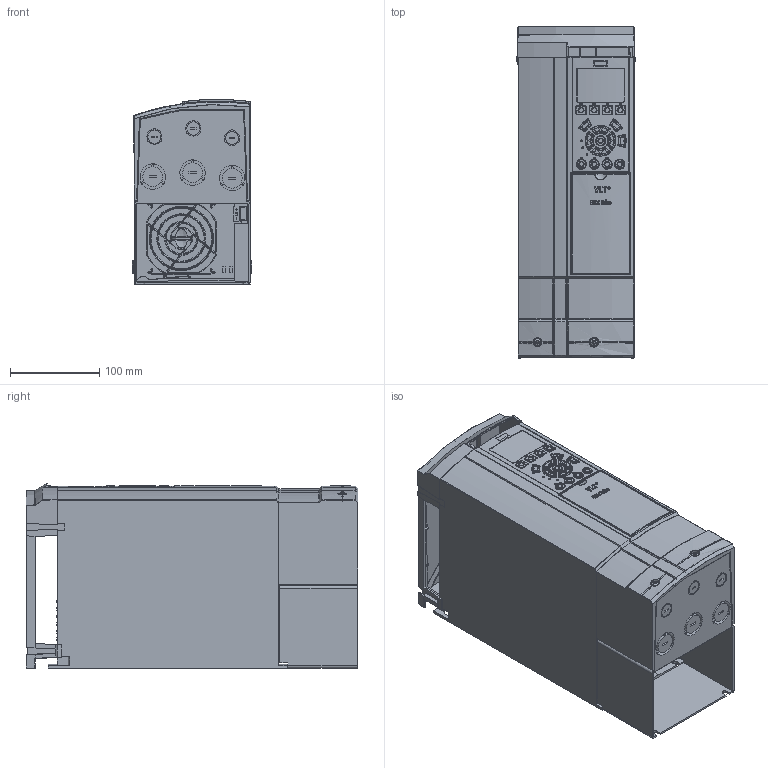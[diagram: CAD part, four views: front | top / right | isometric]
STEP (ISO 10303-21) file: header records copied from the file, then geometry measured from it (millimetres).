
FILE_DESCRIPTION((''),'2;1');
FILE_NAME('DANFOSS-FC100-A3-IP21-054','2007-03-07T',('Janardhan.Mankala'),('dan Drives A/S'),'PRO/ENGINEER BY PARAMETRIC TECHNOLOGY CORPORATION, 2006200','PRO/ENGINEER BY PARAMETRIC TECHNOLOGY CORPORATION, 2006200','');
FILE_SCHEMA(('CONFIG_CONTROL_DESIGN', 'GEOMETRIC_VALIDATION_PROPERTIES_MIM'));
Products named in the file (1): DANFOSS-FC100-A3-IP21-054
Bounding box: 134.22 x 372 x 207.57 mm (x, y, z)
Volume: 7752722 mm3; surface area: 524064.6 mm2
Topology: 2 solids, 19 shells, 3126 faces, 8036 edges, 4992 vertices
Faces by surface type: plane 1282, bspline 738, cylinder 718, torus 165, extrusion 80, sphere 78, cone 65
Entity records: 171873 total; most frequent: CARTESIAN_POINT 61355, ORIENTED_EDGE 15996, DIRECTION 11352, PRESENTATION_STYLE_ASSIGNMENT 9939, STYLED_ITEM 8033, CURVE_STYLE 7998, EDGE_CURVE 7998, VERTEX_POINT 4991
